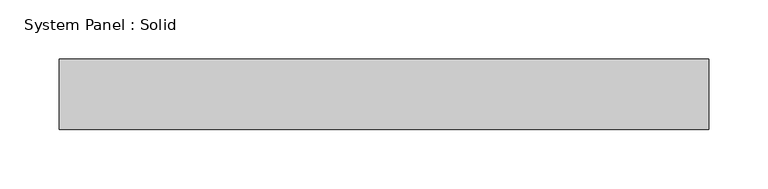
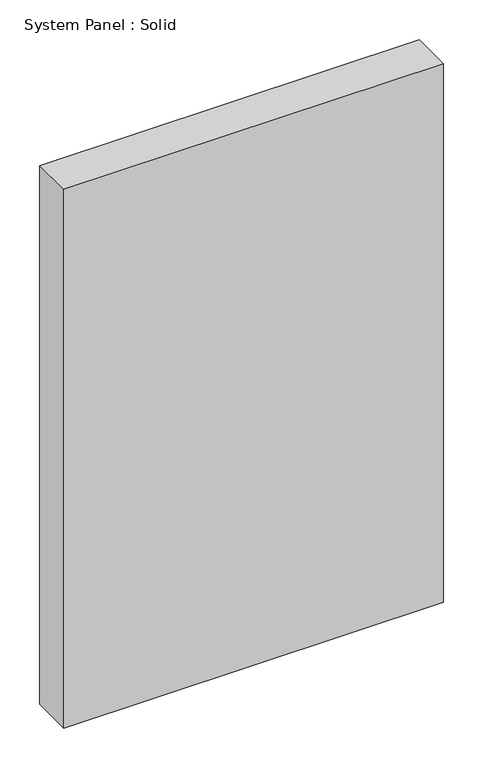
"""IFC4 building model written with IfcOpenShell, lengths in millimetres: plate geometry, System Panel : Solid."""

from ifc_helpers import new_model, si_unit, origin, origin_with_axes, place, context, project, spatial, polyline, outline, extrude, source, transform, mapped, element, save


def system_panel_solid_e0b174c6(model_context):
    return source(origin(), model_context, "Body", "SweptSolid", [
        extrude(outline(polyline([(274.9999999, -49.5), (-274.9999999, -49.5), (-274.9999999, 10.5), (274.9999999, 10.5), (274.9999999, -49.5)])), origin_with_axes(), (0.0, 0.0, 1.0), 825.0),
    ])


if __name__ == "__main__":
    model = new_model("IFC4")
    model_context = context("Model", 3, world=origin())
    ifc_project = project(units=[si_unit("LENGTHUNIT", "METRE", prefix="MILLI")], contexts=[model_context])
    site = spatial("IfcSite", under=ifc_project)
    building = spatial("IfcBuilding", under=site)
    placement = place(None, origin())
    system_panel_solid_shape = system_panel_solid_e0b174c6(model_context)
    element("IfcPlate", 1, ObjectType="System Panel : Solid", at=placement, inside=building, context=model_context, shape_type="MappedRepresentation", body=[
        mapped(system_panel_solid_shape, transform((0.0, 0.0, 0.0), x_axis=(1.0, 0.0, 0.0), y_axis=(0.0, 1.0, 0.0), z_axis=(0.0, 0.0, 1.0))),
    ])
    save(model, "model.ifc")
